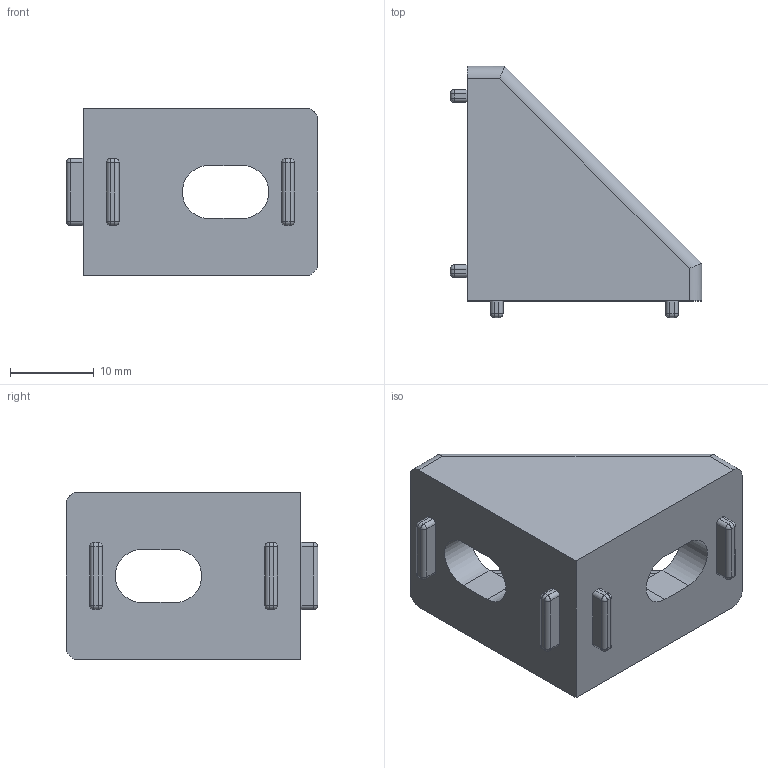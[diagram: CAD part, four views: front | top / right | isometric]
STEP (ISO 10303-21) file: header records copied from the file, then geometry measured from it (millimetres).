
FILE_DESCRIPTION((''),'2;1');
FILE_NAME('E:\catalogue and flyer\Profile catalogue 2015\Accessories JE info\Accessories-JE step file 31MAr16\JE-GE20x28-8.stp','2016-03-31T15:33:13',('h029'),(''),'Autodesk Inventor 11','Autodesk Inventor 11','');
FILE_SCHEMA(('AUTOMOTIVE_DESIGN { 1 0 10303 214 1 1 1 1 }'));
Length unit declared in the file: millimetre
Products named in the file (1): JE-GE20x28-8
Bounding box: 30 x 30 x 20 mm (x, y, z)
Volume: 5788.9 mm3; surface area: 3763 mm2
Topology: 1 solids, 1 shells, 94 faces, 232 edges, 128 vertices
Faces by surface type: cylinder 44, plane 34, sphere 16
Entity records: 2731 total; most frequent: CARTESIAN_POINT 523, DIRECTION 490, ORIENTED_EDGE 432, EDGE_CURVE 216, AXIS2_PLACEMENT_3D 183, VERTEX_POINT 128, VECTOR 124, LINE 124
